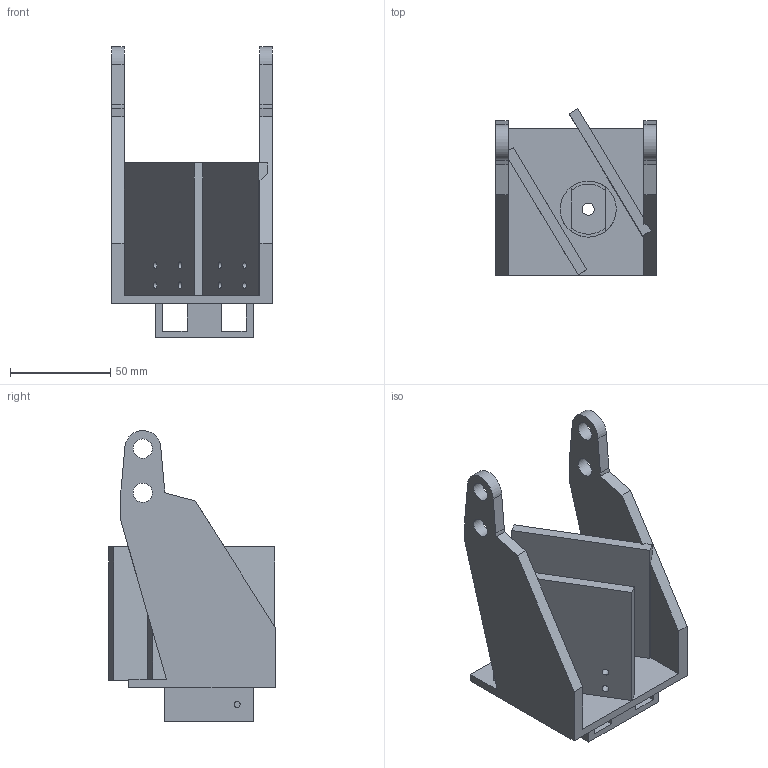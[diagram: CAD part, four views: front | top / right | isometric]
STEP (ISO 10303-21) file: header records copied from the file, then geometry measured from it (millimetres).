
FILE_DESCRIPTION(('Open CASCADE Model'),'2;1');
FILE_NAME('Open CASCADE Shape Model','2026-10-17T23:02:58',('Author'),( 'Open CASCADE'),'Open CASCADE STEP processor 7.9','Open CASCADE 7.9' ,'Unknown');
FILE_SCHEMA(('AUTOMOTIVE_DESIGN { 1 0 10303 214 1 1 1 1 }'));
Length unit declared in the file: millimetre
Products named in the file (1): Open CASCADE STEP translator 7.9 5
Bounding box: 79.8 x 82.95 x 145.04 mm (x, y, z)
Volume: 145427.9 mm3; surface area: 63466.1 mm2
Topology: 1 solids, 1 shells, 80 faces, 237 edges, 158 vertices
Faces by surface type: plane 52, cylinder 28
Full cylindrical faces by diameter (mm): 3 x2, 3.4 x8, 6.1 x1, 7.6 x2, 9.6 x4, 28 x1
Entity records: 6096 total; most frequent: CARTESIAN_POINT 1300, DIRECTION 893, LINE 585, VECTOR 585, ORIENTED_EDGE 474, PCURVE 474, DEFINITIONAL_REPRESENTATION 474, EDGE_CURVE 237
